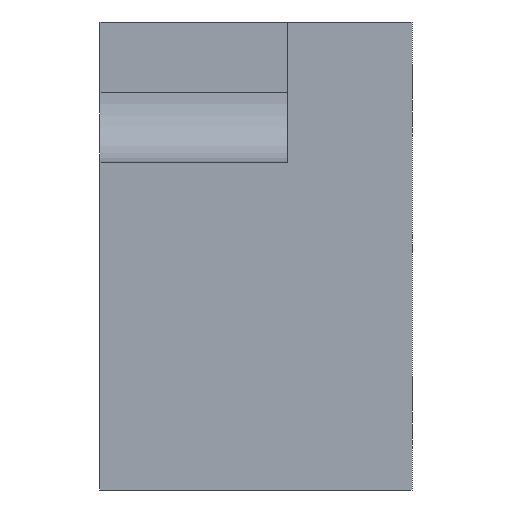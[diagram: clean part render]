
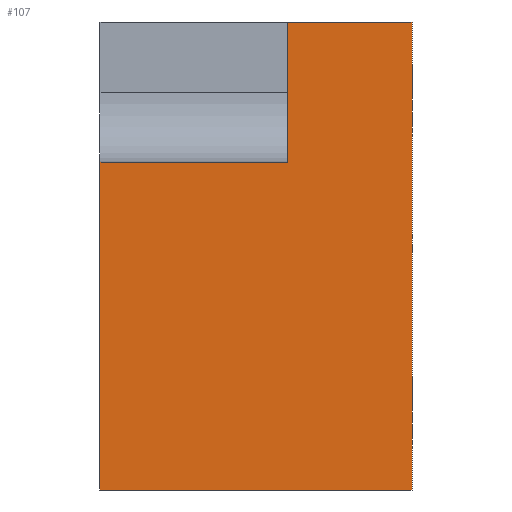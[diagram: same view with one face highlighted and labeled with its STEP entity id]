
A CAD part, left-side view. The second image highlights one B-rep face of the part: STEP entity #107.
In plain terms, the highlighted planar face has unit normal (-1, 0, 0).
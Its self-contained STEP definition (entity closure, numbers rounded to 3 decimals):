
#107 = ADVANCED_FACE( '', ( #180 ), #181, .T. );
#180 = FACE_OUTER_BOUND( '', #253, .T. );
#181 = PLANE( '', #254 );
#253 = EDGE_LOOP( '', ( #509, #510, #511, #512, #513, #514 ) );
#254 = AXIS2_PLACEMENT_3D( '', #515, #516, #517 );
#509 = ORIENTED_EDGE( '', *, *, #599, .F. );
#510 = ORIENTED_EDGE( '', *, *, #597, .F. );
#511 = ORIENTED_EDGE( '', *, *, #595, .F. );
#512 = ORIENTED_EDGE( '', *, *, #581, .T. );
#513 = ORIENTED_EDGE( '', *, *, #573, .T. );
#514 = ORIENTED_EDGE( '', *, *, #590, .F. );
#515 = CARTESIAN_POINT( '', ( -70., -8.5, -8. ) );
#516 = DIRECTION( '', ( -1., 0., 0. ) );
#517 = DIRECTION( '', ( 0., 0., 1. ) );
#573 = EDGE_CURVE( '', #694, #696, #698, .T. );
#581 = EDGE_CURVE( '', #710, #694, #711, .T. );
#590 = EDGE_CURVE( '', #722, #696, #724, .T. );
#595 = EDGE_CURVE( '', #710, #729, #730, .T. );
#597 = EDGE_CURVE( '', #729, #732, #733, .T. );
#599 = EDGE_CURVE( '', #732, #722, #735, .T. );
#694 = VERTEX_POINT( '', #859 );
#696 = VERTEX_POINT( '', #862 );
#698 = LINE( '', #865, #866 );
#710 = VERTEX_POINT( '', #884 );
#711 = LINE( '', #885, #886 );
#722 = VERTEX_POINT( '', #903 );
#724 = LINE( '', #906, #907 );
#729 = VERTEX_POINT( '', #912 );
#730 = LINE( '', #913, #914 );
#732 = VERTEX_POINT( '', #917 );
#733 = LINE( '', #918, #919 );
#735 = LINE( '', #922, #923 );
#859 = CARTESIAN_POINT( '', ( -70., -0.5, -2. ) );
#862 = CARTESIAN_POINT( '', ( -70., 11.5, -2. ) );
#865 = CARTESIAN_POINT( '', ( -70., 1.5, -2. ) );
#866 = VECTOR( '', #1027, 1. );
#884 = CARTESIAN_POINT( '', ( -70., -0.5, 7. ) );
#885 = CARTESIAN_POINT( '', ( -70., -0.5, -8. ) );
#886 = VECTOR( '', #1037, 1. );
#903 = CARTESIAN_POINT( '', ( -70., 11.5, -23. ) );
#906 = CARTESIAN_POINT( '', ( -70., 11.5, 7. ) );
#907 = VECTOR( '', #1048, 1. );
#912 = CARTESIAN_POINT( '', ( -70., -8.5, 7. ) );
#913 = CARTESIAN_POINT( '', ( -70., -8.5, 7. ) );
#914 = VECTOR( '', #1061, 1. );
#917 = CARTESIAN_POINT( '', ( -70., -8.5, -23. ) );
#918 = CARTESIAN_POINT( '', ( -70., -8.5, -23. ) );
#919 = VECTOR( '', #1063, 1. );
#922 = CARTESIAN_POINT( '', ( -70., 11.5, -23. ) );
#923 = VECTOR( '', #1065, 1. );
#1027 = DIRECTION( '', ( 0., 1., 0. ) );
#1037 = DIRECTION( '', ( 0., 0., -1. ) );
#1048 = DIRECTION( '', ( 0., 0., 1. ) );
#1061 = DIRECTION( '', ( 0., -1., 0. ) );
#1063 = DIRECTION( '', ( 0., 0., -1. ) );
#1065 = DIRECTION( '', ( 0., 1., 0. ) );
